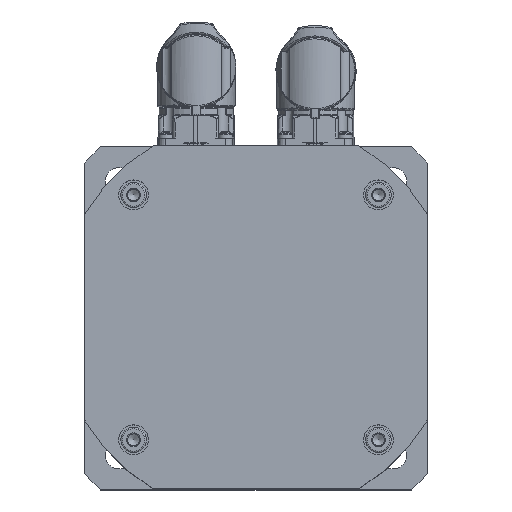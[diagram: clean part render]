
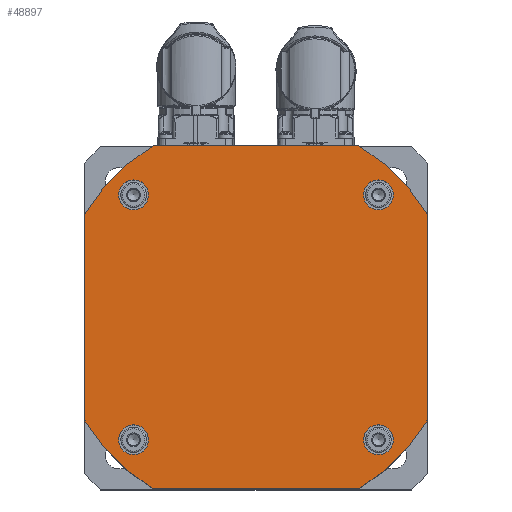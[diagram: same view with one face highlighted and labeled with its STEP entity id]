
A CAD part, top view. The second image highlights one B-rep face of the part: STEP entity #48897.
In plain terms, the highlighted planar face has unit normal (0, 0, 1).
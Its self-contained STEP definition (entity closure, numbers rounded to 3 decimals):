
#7400=FACE_BOUND('',#11566,.T.);
#7401=FACE_BOUND('',#11567,.T.);
#7402=FACE_BOUND('',#11568,.T.);
#7403=FACE_BOUND('',#11569,.T.);
#7404=FACE_BOUND('',#11570,.T.);
#7815=PLANE('',#52114);
#11566=EDGE_LOOP('',(#33661));
#11567=EDGE_LOOP('',(#33662));
#11568=EDGE_LOOP('',(#33663));
#11569=EDGE_LOOP('',(#33664));
#11570=EDGE_LOOP('',(#33665,#33666,#33667,#33668,#33669,#33670,#33671,#33672));
#14995=CIRCLE('',#52083,5.);
#14997=CIRCLE('',#52087,5.);
#14999=CIRCLE('',#52091,5.);
#15001=CIRCLE('',#52095,5.);
#15004=CIRCLE('',#52100,67.);
#15006=CIRCLE('',#52104,67.);
#15008=CIRCLE('',#52108,67.);
#15010=CIRCLE('',#52112,67.);
#17758=LINE('',#70968,#19579);
#17762=LINE('',#70980,#19583);
#17766=LINE('',#70992,#19587);
#17770=LINE('',#71002,#19591);
#19579=VECTOR('',#57903,68.782);
#19583=VECTOR('',#57915,68.782);
#19587=VECTOR('',#57927,68.782);
#19591=VECTOR('',#57939,68.782);
#21450=VERTEX_POINT('',#70932);
#21452=VERTEX_POINT('',#70938);
#21454=VERTEX_POINT('',#70944);
#21456=VERTEX_POINT('',#70950);
#21460=VERTEX_POINT('',#70959);
#21461=VERTEX_POINT('',#70961);
#21463=VERTEX_POINT('',#70967);
#21465=VERTEX_POINT('',#70973);
#21467=VERTEX_POINT('',#70979);
#21469=VERTEX_POINT('',#70985);
#21471=VERTEX_POINT('',#70991);
#21473=VERTEX_POINT('',#70997);
#26098=EDGE_CURVE('',#21450,#21450,#14995,.T.);
#26100=EDGE_CURVE('',#21452,#21452,#14997,.T.);
#26102=EDGE_CURVE('',#21454,#21454,#14999,.T.);
#26104=EDGE_CURVE('',#21456,#21456,#15001,.T.);
#26108=EDGE_CURVE('',#21461,#21460,#15004,.T.);
#26111=EDGE_CURVE('',#21463,#21461,#17758,.T.);
#26114=EDGE_CURVE('',#21465,#21463,#15006,.T.);
#26117=EDGE_CURVE('',#21467,#21465,#17762,.T.);
#26120=EDGE_CURVE('',#21469,#21467,#15008,.T.);
#26123=EDGE_CURVE('',#21471,#21469,#17766,.T.);
#26126=EDGE_CURVE('',#21473,#21471,#15010,.T.);
#26129=EDGE_CURVE('',#21460,#21473,#17770,.T.);
#33661=ORIENTED_EDGE('',*,*,#26098,.T.);
#33662=ORIENTED_EDGE('',*,*,#26100,.T.);
#33663=ORIENTED_EDGE('',*,*,#26102,.T.);
#33664=ORIENTED_EDGE('',*,*,#26104,.T.);
#33665=ORIENTED_EDGE('',*,*,#26129,.T.);
#33666=ORIENTED_EDGE('',*,*,#26126,.T.);
#33667=ORIENTED_EDGE('',*,*,#26123,.T.);
#33668=ORIENTED_EDGE('',*,*,#26120,.T.);
#33669=ORIENTED_EDGE('',*,*,#26117,.T.);
#33670=ORIENTED_EDGE('',*,*,#26114,.T.);
#33671=ORIENTED_EDGE('',*,*,#26111,.T.);
#33672=ORIENTED_EDGE('',*,*,#26108,.T.);
#48897=ADVANCED_FACE('',(#7400,#7401,#7402,#7403,#7404),#7815,.T.);
#52083=AXIS2_PLACEMENT_3D('',#70933,#57862,#57863);
#52087=AXIS2_PLACEMENT_3D('',#70939,#57870,#57871);
#52091=AXIS2_PLACEMENT_3D('',#70945,#57878,#57879);
#52095=AXIS2_PLACEMENT_3D('',#70951,#57886,#57887);
#52100=AXIS2_PLACEMENT_3D('',#70962,#57897,#57898);
#52104=AXIS2_PLACEMENT_3D('',#70974,#57909,#57910);
#52108=AXIS2_PLACEMENT_3D('',#70986,#57921,#57922);
#52112=AXIS2_PLACEMENT_3D('',#70998,#57933,#57934);
#52114=AXIS2_PLACEMENT_3D('',#71003,#57940,#57941);
#57862=DIRECTION('center_axis',(0.,0.,-1.));
#57863=DIRECTION('ref_axis',(0.,-1.,0.));
#57870=DIRECTION('center_axis',(0.,0.,-1.));
#57871=DIRECTION('ref_axis',(-1.,0.,0.));
#57878=DIRECTION('center_axis',(0.,0.,-1.));
#57879=DIRECTION('ref_axis',(0.,1.,0.));
#57886=DIRECTION('center_axis',(0.,0.,-1.));
#57887=DIRECTION('ref_axis',(1.,0.,0.));
#57897=DIRECTION('center_axis',(0.,0.,1.));
#57898=DIRECTION('ref_axis',(0.858,0.513,0.));
#57903=DIRECTION('',(0.,1.,0.));
#57909=DIRECTION('center_axis',(0.,0.,1.));
#57910=DIRECTION('ref_axis',(0.513,-0.858,0.));
#57915=DIRECTION('',(1.,0.,0.));
#57921=DIRECTION('center_axis',(0.,0.,1.));
#57922=DIRECTION('ref_axis',(-0.858,-0.513,0.));
#57927=DIRECTION('',(0.,-1.,0.));
#57933=DIRECTION('center_axis',(0.,0.,1.));
#57934=DIRECTION('ref_axis',(-0.513,0.858,0.));
#57939=DIRECTION('',(-1.,0.,0.));
#57940=DIRECTION('center_axis',(0.,0.,1.));
#57941=DIRECTION('ref_axis',(1.,0.,0.));
#70932=CARTESIAN_POINT('',(41.012,-46.012,200.5));
#70933=CARTESIAN_POINT('Origin',(41.012,-41.012,200.5));
#70938=CARTESIAN_POINT('',(-46.012,-41.012,200.5));
#70939=CARTESIAN_POINT('Origin',(-41.012,-41.012,200.5));
#70944=CARTESIAN_POINT('',(-41.012,46.012,200.5));
#70945=CARTESIAN_POINT('Origin',(-41.012,41.012,200.5));
#70950=CARTESIAN_POINT('',(46.012,41.012,200.5));
#70951=CARTESIAN_POINT('Origin',(41.012,41.012,200.5));
#70959=CARTESIAN_POINT('',(34.391,57.5,200.5));
#70961=CARTESIAN_POINT('',(57.5,34.391,200.5));
#70962=CARTESIAN_POINT('Origin',(0.,0.,200.5));
#70967=CARTESIAN_POINT('',(57.5,-34.391,200.5));
#70968=CARTESIAN_POINT('',(57.5,-57.5,200.5));
#70973=CARTESIAN_POINT('',(34.391,-57.5,200.5));
#70974=CARTESIAN_POINT('Origin',(0.,0.,200.5));
#70979=CARTESIAN_POINT('',(-34.391,-57.5,200.5));
#70980=CARTESIAN_POINT('',(-57.5,-57.5,200.5));
#70985=CARTESIAN_POINT('',(-57.5,-34.391,200.5));
#70986=CARTESIAN_POINT('Origin',(0.,0.,200.5));
#70991=CARTESIAN_POINT('',(-57.5,34.391,200.5));
#70992=CARTESIAN_POINT('',(-57.5,57.5,200.5));
#70997=CARTESIAN_POINT('',(-34.391,57.5,200.5));
#70998=CARTESIAN_POINT('Origin',(0.,0.,200.5));
#71002=CARTESIAN_POINT('',(57.5,57.5,200.5));
#71003=CARTESIAN_POINT('Origin',(0.,0.,
200.5));
